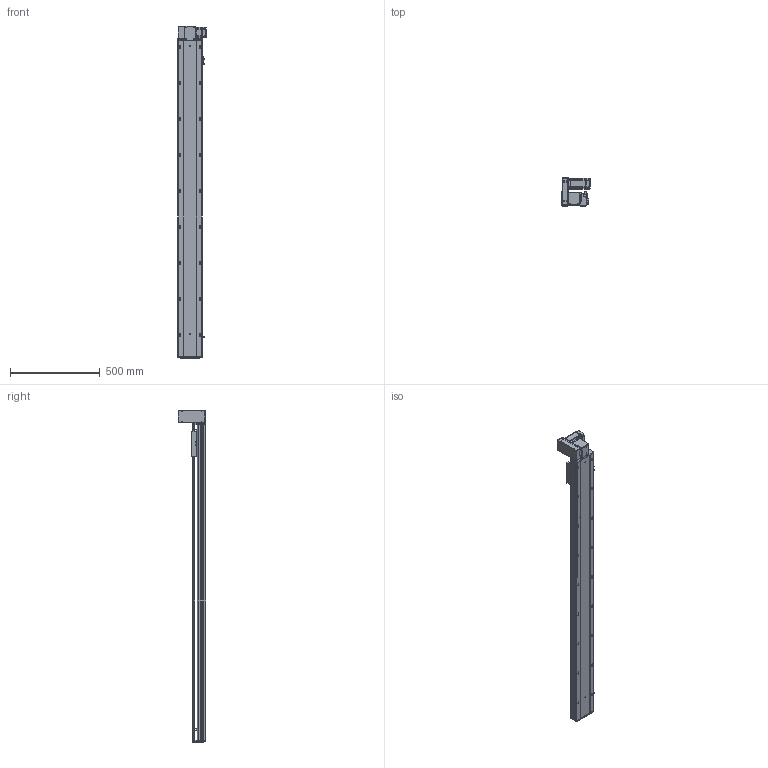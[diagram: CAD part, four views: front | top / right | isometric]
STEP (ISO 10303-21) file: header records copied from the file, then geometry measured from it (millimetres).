
FILE_DESCRIPTION (( 'STEP AP203' ), '1' );
FILE_NAME ('RY140-T-300-UL.SLDASM_1500.step', '2021-03-01T07:44:33', ( '盈信电脑' ), ( '东莞市道滘镇水果街19号' ), 'SwSTEP 2.0', 'SolidWorks 2012', '' );
FILE_SCHEMA (( 'CONFIG_CONTROL_DESIGN' ));
Length unit declared in the file: millimetre
Products named in the file (18): RY140-T翋肮謫裔啣; 滅袉蝶18-10; RY140-T-300-UL.SLDASM_1500; RY120-T蹟翐M4; RY140-T萇儂欶; 侂狟400W侜督萇儂; RY120-T主同步轮轴承压盖; 15; RY140-T萇儂假蚾啣; RY140-T翋肮祭謫盓傅釱; RY120-T肮祭湍揤踡輸1; RY120外置感应片(140共用）; RY120-T肮祭湍揤踡輸2; 覜茼ん672; RY140-T-300-DL倰第奻裔啣_1500; RY140肮祭謫臏賑輸; RY140綴裔啣; RY140-T-300-DL倰第菁釱_1500
Assembly tree (23 placements, depth 3):
  RY140-T-300-UL.SLDASM_1500
    RY140-T-300-DL倰第菁釱_1500
    RY140肮祭謫臏賑輸
    RY140-T-300-DL倰第奻裔啣_1500
    RY140綴裔啣
    覜茼ん672  x3
    RY120外置感应片(140共用）
    RY120-T肮祭湍揤踡輸2
    RY120-T肮祭湍揤踡輸1
    RY140-T翋肮祭謫盓傅釱
    RY140-T萇儂假蚾啣
    侂狟400W侜督萇儂
      15
    RY120-T主同步轮轴承压盖
    RY120-T蹟翐M4  x4
    RY140-T萇儂欶
    滅袉蝶18-10  x2
    RY140-T翋肮謫裔啣
Bounding box: 157 x 152.5 x 1846 mm (x, y, z)
Volume: 5193560.3 mm3; surface area: 2012517.7 mm2
Topology: 22 solids, 22 shells, 2767 faces, 7577 edges, 4838 vertices
Faces by surface type: plane 1381, cylinder 1032, cone 254, bspline 100
Entity records: 87367 total; most frequent: CARTESIAN_POINT 21223, ORIENTED_EDGE 13570, DIRECTION 12961, EDGE_CURVE 6785, VERTEX_POINT 4437, AXIS2_PLACEMENT_3D 4328, LINE 4305, VECTOR 4305
